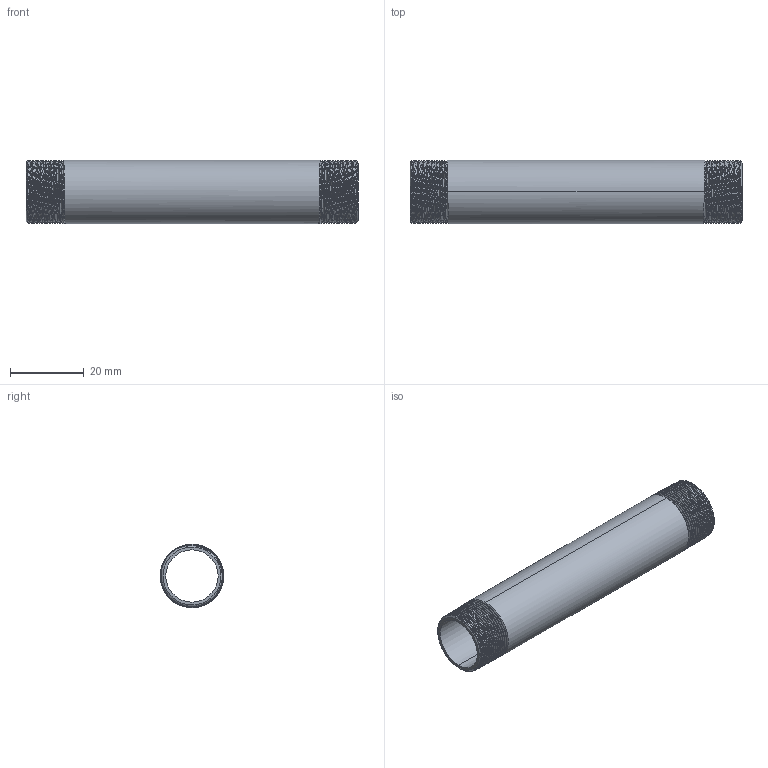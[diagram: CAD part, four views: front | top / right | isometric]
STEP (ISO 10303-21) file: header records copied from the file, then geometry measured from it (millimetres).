
FILE_DESCRIPTION (( 'STEP AP203' ), '1' );
FILE_NAME ('3D_R210_3-8x90_17185754.STEP', '2024-08-16T11:26:40', ( '' ), ( '' ), 'SwSTEP 2.0', 'SolidWorks 2024', '' );
FILE_SCHEMA (( 'CONFIG_CONTROL_DESIGN' ));
Length unit declared in the file: millimetre
Products named in the file (1): 3D_R210_3-8x90_17185754
Bounding box: 90 x 17.18 x 17.2 mm (x, y, z)
Volume: 6418.5 mm3; surface area: 9455.7 mm2
Topology: 1 solids, 1 shells, 76 faces, 218 edges, 144 vertices
Faces by surface type: cone 62, bspline 6, cylinder 4, plane 4
Entity records: 11224 total; most frequent: CARTESIAN_POINT 9454, ORIENTED_EDGE 436, DIRECTION 230, EDGE_CURVE 218, VERTEX_POINT 144, B_SPLINE_CURVE_WITH_KNOTS 132, AXIS2_PLACEMENT_3D 81, EDGE_LOOP 78
